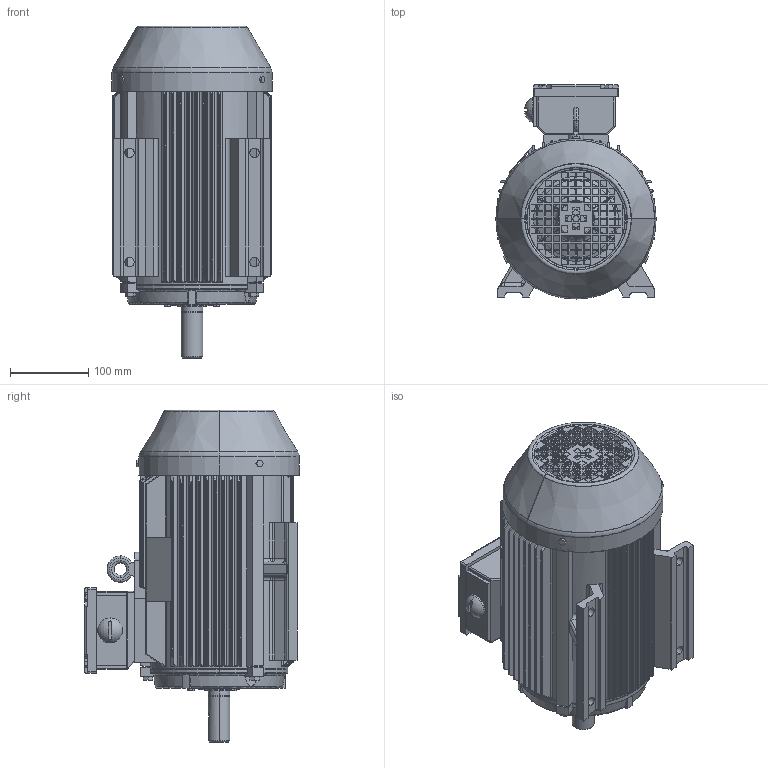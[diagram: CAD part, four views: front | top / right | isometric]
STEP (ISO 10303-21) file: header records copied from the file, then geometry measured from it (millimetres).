
FILE_DESCRIPTION (( 'STEP AP203' ), '1' );
FILE_NAME ('TE3-100L(GX) B3上.STEP', '2019-11-07T00:03:32', ( '微软用户' ), ( '微软中国' ), 'SwSTEP 2.0', 'SolidWorks 2012', '' );
FILE_SCHEMA (( 'CONFIG_CONTROL_DESIGN' ));
Length unit declared in the file: millimetre
Products named in the file (1): TE3-100L(GX) B3奻
Bounding box: 205.4 x 274.7 x 425.49 mm (x, y, z)
Volume: 3131297.5 mm3; surface area: 979109.1 mm2
Topology: 6 solids, 7 shells, 1356 faces, 3689 edges, 2413 vertices
Faces by surface type: plane 807, cylinder 350, cone 109, torus 70, sphere 10, bspline 10
Entity records: 46597 total; most frequent: CARTESIAN_POINT 12574, ORIENTED_EDGE 7362, DIRECTION 6409, EDGE_CURVE 3681, VERTEX_POINT 2413, LINE 2387, VECTOR 2387, AXIS2_PLACEMENT_3D 2011
